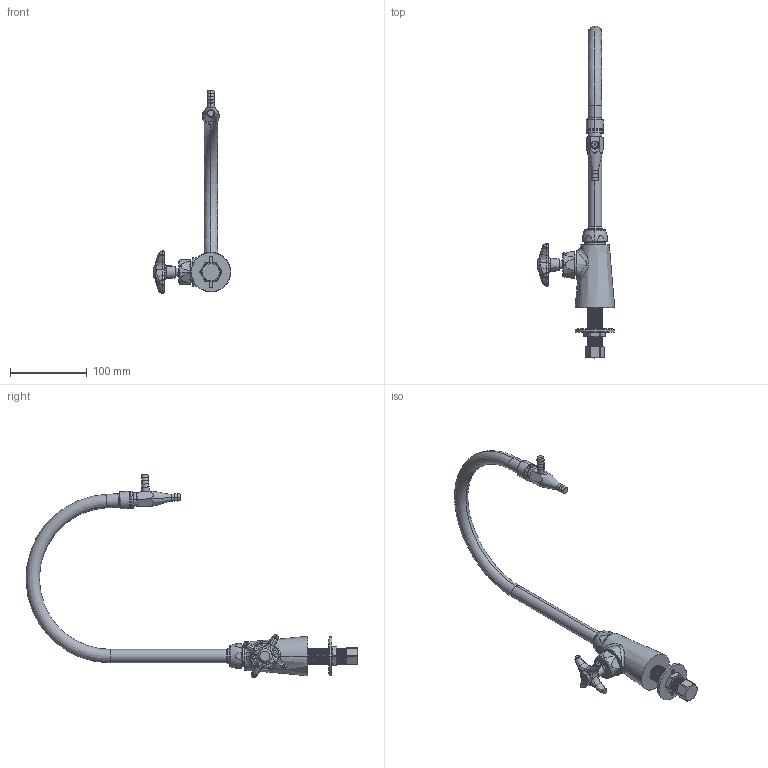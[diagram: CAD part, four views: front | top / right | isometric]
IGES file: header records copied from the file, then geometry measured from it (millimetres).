
Start section:  PTC IGES file: LWS2-A33-B.igs
Global section: file name: LWS2-A33-B.igs; native system: Creo Parametric by PTC Inc.; preprocessor: 2014500; author: usch_engrender; organization: Unknown; date: 20151203.142112; units: inch
Bounding box: 100.81 x 431.83 x 264.23 mm (x, y, z)
Volume: 342850.6 mm3; surface area: 68062.7 mm2
Topology: 1 solids, 4 shells, 442 faces, 1071 edges, 655 vertices
Faces by surface type: bspline 222, revolution 220
